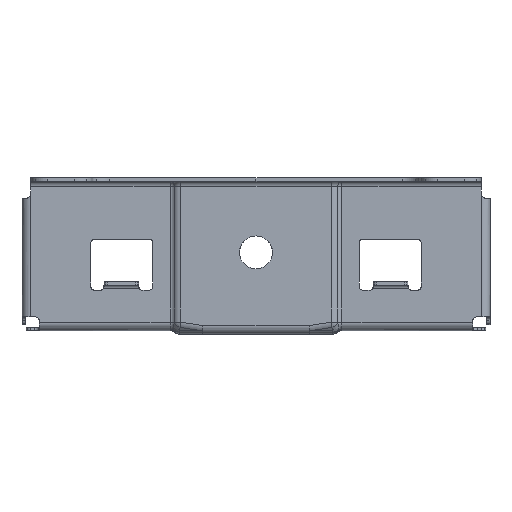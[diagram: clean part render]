
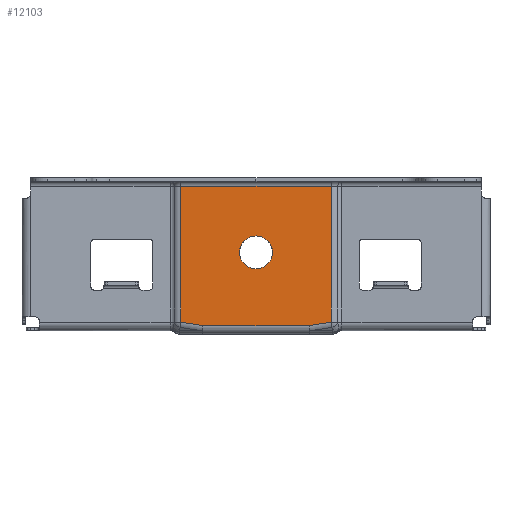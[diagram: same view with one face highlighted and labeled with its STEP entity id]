
A CAD part, left-side view. The second image highlights one B-rep face of the part: STEP entity #12103.
In plain terms, the highlighted planar face has unit normal (-1, 0, 0).
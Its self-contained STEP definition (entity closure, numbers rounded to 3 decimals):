
#1822=CARTESIAN_POINT('Vertex',(-26.9,-738.5,63.263)) ;
#1826=CARTESIAN_POINT('Control Point',(-26.9,-735.691,69.954)) ;
#1827=CARTESIAN_POINT('Control Point',(-26.9,-737.419,68.227)) ;
#1828=CARTESIAN_POINT('Control Point',(-26.9,-738.5,65.852)) ;
#1829=CARTESIAN_POINT('Control Point',(-26.9,-738.5,63.263)) ;
#1830=CARTESIAN_POINT('Vertex',(-26.9,-735.718,69.981)) ;
#1834=CARTESIAN_POINT('Control Point',(-26.9,-729.,72.763)) ;
#1835=CARTESIAN_POINT('Control Point',(-26.9,-731.588,72.763)) ;
#1836=CARTESIAN_POINT('Control Point',(-26.9,-733.963,71.682)) ;
#1837=CARTESIAN_POINT('Control Point',(-26.9,-735.691,69.954)) ;
#1838=CARTESIAN_POINT('Vertex',(-26.9,-729.,72.763)) ;
#1881=CARTESIAN_POINT('Vertex',(-26.9,-729.,53.763)) ;
#1885=CARTESIAN_POINT('Control Point',(-26.9,-735.692,56.572)) ;
#1886=CARTESIAN_POINT('Control Point',(-26.9,-733.964,54.844)) ;
#1887=CARTESIAN_POINT('Control Point',(-26.9,-731.589,53.763)) ;
#1888=CARTESIAN_POINT('Control Point',(-26.9,-729.,53.763)) ;
#1889=CARTESIAN_POINT('Vertex',(-26.9,-735.718,56.546)) ;
#1893=CARTESIAN_POINT('Control Point',(-26.9,-738.5,63.263)) ;
#1894=CARTESIAN_POINT('Control Point',(-26.9,-738.5,60.675)) ;
#1895=CARTESIAN_POINT('Control Point',(-26.9,-737.42,58.3)) ;
#1896=CARTESIAN_POINT('Control Point',(-26.9,-735.692,56.572)) ;
#2281=CARTESIAN_POINT('Control Point',(-26.9,-772.478,22.885)) ;
#2282=CARTESIAN_POINT('Control Point',(-26.9,-772.478,22.888)) ;
#2283=CARTESIAN_POINT('Control Point',(-26.9,-772.478,22.891)) ;
#2284=CARTESIAN_POINT('Control Point',(-26.9,-772.478,22.894)) ;
#2285=CARTESIAN_POINT('Control Point',(-26.9,-772.478,22.897)) ;
#2286=CARTESIAN_POINT('Control Point',(-26.9,-772.478,22.9)) ;
#2287=CARTESIAN_POINT('Vertex',(-26.9,-772.478,22.9)) ;
#2289=CARTESIAN_POINT('Vertex',(-26.9,-772.478,22.885)) ;
#7698=CARTESIAN_POINT('Vertex',(-26.9,-719.5,63.263)) ;
#7702=CARTESIAN_POINT('Control Point',(-26.9,-719.5,63.263)) ;
#7703=CARTESIAN_POINT('Control Point',(-26.9,-719.5,60.675)) ;
#7704=CARTESIAN_POINT('Control Point',(-26.9,-720.581,58.3)) ;
#7705=CARTESIAN_POINT('Control Point',(-26.9,-722.309,56.572)) ;
#7706=CARTESIAN_POINT('Vertex',(-26.9,-722.283,56.546)) ;
#7710=CARTESIAN_POINT('Control Point',(-26.9,-722.309,56.572)) ;
#7711=CARTESIAN_POINT('Control Point',(-26.9,-724.037,54.844)) ;
#7712=CARTESIAN_POINT('Control Point',(-26.9,-726.412,53.763)) ;
#7713=CARTESIAN_POINT('Control Point',(-26.9,-729.,53.763)) ;
#7745=CARTESIAN_POINT('Control Point',(-26.9,-729.,72.763)) ;
#7746=CARTESIAN_POINT('Control Point',(-26.9,-726.413,72.763)) ;
#7747=CARTESIAN_POINT('Control Point',(-26.9,-724.038,71.682)) ;
#7748=CARTESIAN_POINT('Control Point',(-26.9,-722.31,69.954)) ;
#7749=CARTESIAN_POINT('Vertex',(-26.9,-722.283,69.981)) ;
#7753=CARTESIAN_POINT('Control Point',(-26.9,-722.31,69.954)) ;
#7754=CARTESIAN_POINT('Control Point',(-26.9,-720.582,68.227)) ;
#7755=CARTESIAN_POINT('Control Point',(-26.9,-719.5,65.852)) ;
#7756=CARTESIAN_POINT('Control Point',(-26.9,-719.5,63.263)) ;
#8095=CARTESIAN_POINT('Vertex',(-26.9,-685.523,22.9)) ;
#8104=CARTESIAN_POINT('Vertex',(-26.9,-685.523,22.885)) ;
#8108=CARTESIAN_POINT('Control Point',(-26.9,-685.523,22.885)) ;
#8109=CARTESIAN_POINT('Control Point',(-26.9,-685.523,22.888)) ;
#8110=CARTESIAN_POINT('Control Point',(-26.9,-685.523,22.891)) ;
#8111=CARTESIAN_POINT('Control Point',(-26.9,-685.523,22.894)) ;
#8112=CARTESIAN_POINT('Control Point',(-26.9,-685.523,22.897)) ;
#8113=CARTESIAN_POINT('Control Point',(-26.9,-685.523,22.9)) ;
#11976=CARTESIAN_POINT('Line Origine',(-26.9,-772.478,101.4)) ;
#11980=CARTESIAN_POINT('Vertex',(-26.9,-685.523,101.4)) ;
#11982=CARTESIAN_POINT('Vertex',(-26.9,-772.478,101.4)) ;
#12049=CARTESIAN_POINT('Axis2P3D Location',(-26.9,-788.723,15.9)) ;
#12054=CARTESIAN_POINT('Line Origine',(-26.9,-729.,20.9)) ;
#12058=CARTESIAN_POINT('Vertex',(-26.9,-759.737,20.9)) ;
#12060=CARTESIAN_POINT('Vertex',(-26.9,-698.264,20.9)) ;
#12063=CARTESIAN_POINT('Line Origine',(-26.9,-766.108,21.893)) ;
#12068=CARTESIAN_POINT('Line Origine',(-26.9,-772.478,62.15)) ;
#12073=CARTESIAN_POINT('Line Origine',(-26.9,-685.523,62.15)) ;
#12078=CARTESIAN_POINT('Line Origine',(-26.9,-691.893,21.893)) ;
#11977=DIRECTION('Vector Direction',(0.,1.,0.)) ;
#12050=DIRECTION('Axis2P3D Direction',(-1.,0.,0.)) ;
#12051=DIRECTION('Axis2P3D XDirection',(0.,0.,1.)) ;
#12055=DIRECTION('Vector Direction',(0.,-1.,0.)) ;
#12064=DIRECTION('Vector Direction',(0.,-0.988,0.154)) ;
#12069=DIRECTION('Vector Direction',(0.,0.,1.)) ;
#12074=DIRECTION('Vector Direction',(0.,0.,1.)) ;
#12079=DIRECTION('Vector Direction',(0.,0.988,0.154)) ;
#12052=AXIS2_PLACEMENT_3D('Plane Axis2P3D',#12049,#12050,#12051) ;
#12084=ORIENTED_EDGE('',*,*,#12062,.F.) ;
#12085=ORIENTED_EDGE('',*,*,#12067,.T.) ;
#12086=ORIENTED_EDGE('',*,*,#2291,.F.) ;
#12087=ORIENTED_EDGE('',*,*,#12072,.T.) ;
#12088=ORIENTED_EDGE('',*,*,#11984,.F.) ;
#12089=ORIENTED_EDGE('',*,*,#12077,.F.) ;
#12090=ORIENTED_EDGE('',*,*,#8114,.T.) ;
#12091=ORIENTED_EDGE('',*,*,#12082,.F.) ;
#12094=ORIENTED_EDGE('',*,*,#1891,.T.) ;
#12095=ORIENTED_EDGE('',*,*,#7714,.F.) ;
#12096=ORIENTED_EDGE('',*,*,#7708,.F.) ;
#12097=ORIENTED_EDGE('',*,*,#7757,.F.) ;
#12098=ORIENTED_EDGE('',*,*,#7751,.F.) ;
#12099=ORIENTED_EDGE('',*,*,#1840,.T.) ;
#12100=ORIENTED_EDGE('',*,*,#1832,.T.) ;
#12101=ORIENTED_EDGE('',*,*,#1897,.T.) ;
#12102=FACE_BOUND('',#12093,.T.) ;
#11978=VECTOR('Line Direction',#11977,1.) ;
#12056=VECTOR('Line Direction',#12055,1.) ;
#12065=VECTOR('Line Direction',#12064,1.) ;
#12070=VECTOR('Line Direction',#12069,1.) ;
#12075=VECTOR('Line Direction',#12074,1.) ;
#12080=VECTOR('Line Direction',#12079,1.) ;
#12103=ADVANCED_FACE('SHT0016146-\X2\5BBD8F664E3B9A7E9A76540E4FA794A391D1\X0\',(#12092,#12102),#12053,.T.) ;
#1825=B_SPLINE_CURVE_WITH_KNOTS('',3,(#1826,#1827,#1828,#1829),.UNSPECIFIED.,.F.,.U.,(4,4),(8.234,16.467),.UNSPECIFIED.) ;
#1833=B_SPLINE_CURVE_WITH_KNOTS('',3,(#1834,#1835,#1836,#1837),.UNSPECIFIED.,.F.,.U.,(4,4),(0.,8.234),.UNSPECIFIED.) ;
#1884=B_SPLINE_CURVE_WITH_KNOTS('',3,(#1885,#1886,#1887,#1888),.UNSPECIFIED.,.F.,.U.,(4,4),(8.234,16.467),.UNSPECIFIED.) ;
#1892=B_SPLINE_CURVE_WITH_KNOTS('',3,(#1893,#1894,#1895,#1896),.UNSPECIFIED.,.F.,.U.,(4,4),(0.,8.234),.UNSPECIFIED.) ;
#2280=B_SPLINE_CURVE_WITH_KNOTS('',5,(#2281,#2282,#2283,#2284,#2285,#2286),.UNSPECIFIED.,.F.,.U.,(6,6),(2.883,2.906),.UNSPECIFIED.) ;
#7701=B_SPLINE_CURVE_WITH_KNOTS('',3,(#7702,#7703,#7704,#7705),.UNSPECIFIED.,.F.,.U.,(4,4),(0.,8.234),.UNSPECIFIED.) ;
#7709=B_SPLINE_CURVE_WITH_KNOTS('',3,(#7710,#7711,#7712,#7713),.UNSPECIFIED.,.F.,.U.,(4,4),(8.234,16.467),.UNSPECIFIED.) ;
#7744=B_SPLINE_CURVE_WITH_KNOTS('',3,(#7745,#7746,#7747,#7748),.UNSPECIFIED.,.F.,.U.,(4,4),(0.,8.234),.UNSPECIFIED.) ;
#7752=B_SPLINE_CURVE_WITH_KNOTS('',3,(#7753,#7754,#7755,#7756),.UNSPECIFIED.,.F.,.U.,(4,4),(8.234,16.467),.UNSPECIFIED.) ;
#8107=B_SPLINE_CURVE_WITH_KNOTS('',5,(#8108,#8109,#8110,#8111,#8112,#8113),.UNSPECIFIED.,.F.,.U.,(6,6),(2.883,2.906),.UNSPECIFIED.) ;
#1832=EDGE_CURVE('',#1831,#1823,#1825,.T.) ;
#1840=EDGE_CURVE('',#1839,#1831,#1833,.T.) ;
#1891=EDGE_CURVE('',#1890,#1882,#1884,.T.) ;
#1897=EDGE_CURVE('',#1823,#1890,#1892,.T.) ;
#2291=EDGE_CURVE('',#2288,#2290,#2280,.F.) ;
#7708=EDGE_CURVE('',#7699,#7707,#7701,.T.) ;
#7714=EDGE_CURVE('',#7707,#1882,#7709,.T.) ;
#7751=EDGE_CURVE('',#1839,#7750,#7744,.T.) ;
#7757=EDGE_CURVE('',#7750,#7699,#7752,.T.) ;
#8114=EDGE_CURVE('',#8096,#8105,#8107,.F.) ;
#11984=EDGE_CURVE('',#11981,#11983,#11979,.F.) ;
#12062=EDGE_CURVE('',#12059,#12061,#12057,.F.) ;
#12067=EDGE_CURVE('',#12059,#2290,#12066,.T.) ;
#12072=EDGE_CURVE('',#2288,#11983,#12071,.T.) ;
#12077=EDGE_CURVE('',#8096,#11981,#12076,.T.) ;
#12082=EDGE_CURVE('',#12061,#8105,#12081,.T.) ;
#12083=EDGE_LOOP('',(#12084,#12085,#12086,#12087,#12088,#12089,#12090,#12091)) ;
#12093=EDGE_LOOP('',(#12094,#12095,#12096,#12097,#12098,#12099,#12100,#12101)) ;
#12092=FACE_OUTER_BOUND('',#12083,.T.) ;
#11979=LINE('Line',#11976,#11978) ;
#12057=LINE('Line',#12054,#12056) ;
#12066=LINE('Line',#12063,#12065) ;
#12071=LINE('Line',#12068,#12070) ;
#12076=LINE('Line',#12073,#12075) ;
#12081=LINE('Line',#12078,#12080) ;
#12053=PLANE('Plane',#12052) ;
#1823=VERTEX_POINT('',#1822) ;
#1831=VERTEX_POINT('',#1830) ;
#1839=VERTEX_POINT('',#1838) ;
#1882=VERTEX_POINT('',#1881) ;
#1890=VERTEX_POINT('',#1889) ;
#2288=VERTEX_POINT('',#2287) ;
#2290=VERTEX_POINT('',#2289) ;
#7699=VERTEX_POINT('',#7698) ;
#7707=VERTEX_POINT('',#7706) ;
#7750=VERTEX_POINT('',#7749) ;
#8096=VERTEX_POINT('',#8095) ;
#8105=VERTEX_POINT('',#8104) ;
#11981=VERTEX_POINT('',#11980) ;
#11983=VERTEX_POINT('',#11982) ;
#12059=VERTEX_POINT('',#12058) ;
#12061=VERTEX_POINT('',#12060) ;
